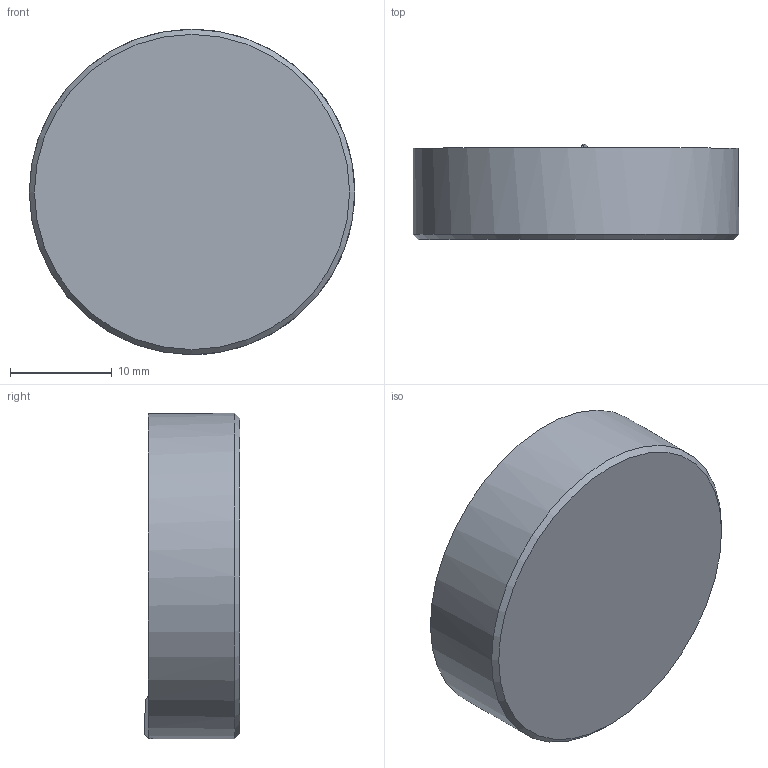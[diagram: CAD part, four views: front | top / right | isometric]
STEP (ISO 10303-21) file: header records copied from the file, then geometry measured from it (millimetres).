
FILE_DESCRIPTION( ( 'STEP AP203' ), '1' );
FILE_NAME( 'C:/Temp/Ganter_Step_05_03_2020/data/3_2/gn187_4/gn187_4_st/Serrated locking plate GN 187.4-32-60-E-ST.stp', '2020-03-13T05:25:50', ( 'License CC BY-ND 4.0' ), ( 'CADENAS' ), ' ', 'PARTsolutions', ' ' );
FILE_SCHEMA( ( 'CONFIG_CONTROL_DESIGN' ) );
Length unit declared in the file: millimetre
Products named in the file (1): _Serrated locking plate GN 187.4-32-60-E-ST
Bounding box: 32 x 9.43 x 32 mm (x, y, z)
Volume: 6790 mm3; surface area: 2560.4 mm2
Topology: 1 solids, 1 shells, 16 faces, 41 edges, 27 vertices
Faces by surface type: plane 7, cone 5, cylinder 4
Full cylindrical faces by diameter (mm): 23.5 x1, 32 x1
Entity records: 590 total; most frequent: CARTESIAN_POINT 186, DIRECTION 76, ORIENTED_EDGE 72, EDGE_CURVE 36, AXIS2_PLACEMENT_3D 35, VERTEX_POINT 25, EDGE_LOOP 19, FACE_OUTER_BOUND 18
